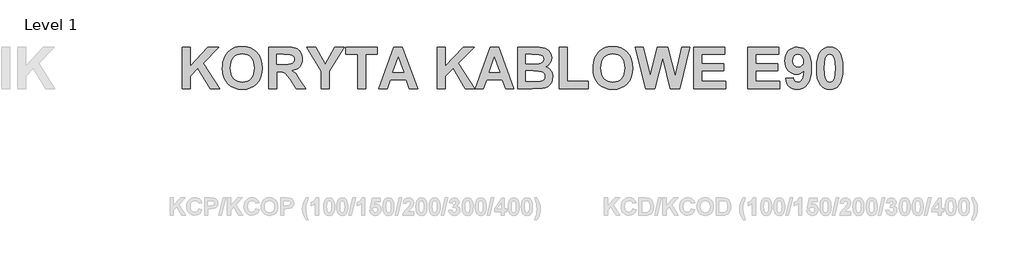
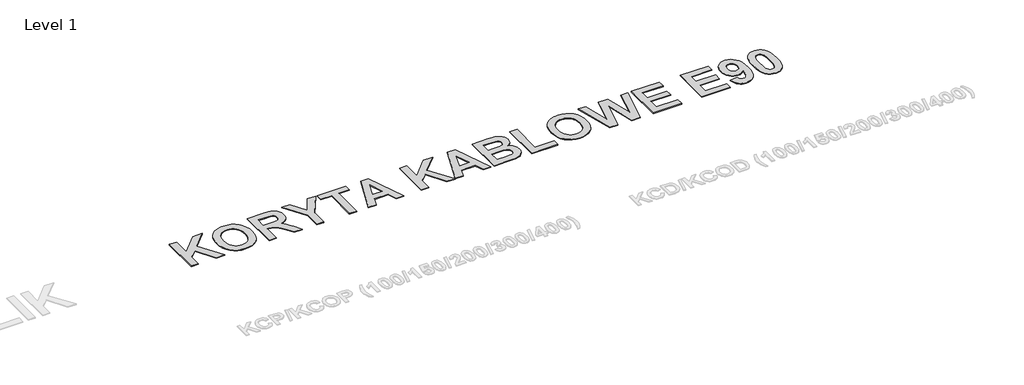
# One storey, part 17 of 42: 1 proxy.
"""IFC4 building model written with IfcOpenShell, lengths in millimetres."""

from ifc_helpers import new_model, si_unit, origin, origin_with_axes, place, context, project, spatial, polyline, outline, extrude, element, save

model = new_model("IFC4")

# Units and contexts
model_context = context("Model", 3, world=origin())
ifc_project = project(units=[si_unit("LENGTHUNIT", "METRE", prefix="MILLI")], contexts=[model_context])

# Site, building, storey
site = spatial("IfcSite", under=ifc_project)
building = spatial("IfcBuilding", under=site)
storey = spatial("IfcBuildingStorey", under=building, Name="Level 1", Elevation=0.0)

# Proxy
placement = place(None, origin())
element("IfcBuildingElementProxy", 1, Name="600mm Arial", ObjectType="600mm Arial", at=placement, inside=storey, context=model_context, shape_type="SweptSolid", body=[
    extrude(outline(polyline([(-16034.6648284, 6231.1737435), (-16034.6648284, 6843.3293835), (-15918.0637541, 6843.3293835), (-15918.0637541, 6564.2762916), (-15655.4076883, 6843.3293835), (-15495.3848598, 6843.3293835), (-15727.0687652, 6609.5199377), (-15485.6681036, 6231.1737435), (-15622.0063389, 6231.1737435), (-15802.8290987, 6532.8486583), (-15918.0637541, 6416.3994084), (-15918.0637541, 6231.1737435), (-16034.6648284, 6231.1737435)])), origin_with_axes(), (0.0, 0.0, 1.0), 10.0),
    extrude(outline(polyline([(-15441.9427008, 6533.4559556), (-15440.2251882, 6578.2631067), (-15435.0726505, 6619.312606), (-15426.4850877, 6656.6044535), (-15414.4624997, 6690.1386492), (-15390.2275433, 6734.3764591), (-15358.5152394, 6773.8697592), (-15321.3752163, 6806.1893603), (-15280.8571021, 6828.9060735), (-15251.6878555, 6839.4673525), (-15220.3551124, 6847.0111231), (-15186.8588728, 6851.5373855), (-15151.1991367, 6853.0461397), (-15088.0971556, 6847.8129453), (-15031.6374882, 6832.1133622), (-14981.8201347, 6805.9473903), (-14938.645095, 6769.3150297), (-14919.9635874, 6747.3609964), (-14903.7729476, 6723.3644517), (-14878.8642708, 6669.2438278), (-14863.9190647, 6606.9531578), (-14858.9373294, 6536.4924419), (-14863.8811087, 6466.5109215), (-14878.7124465, 6404.5950679), (-14903.4313428, 6350.744881), (-14919.4986255, 6326.8444125), (-14938.0377977, 6304.9603608), (-14980.9281669, 6268.4276349), (-15030.4988059, 6242.3328307), (-15086.7497148, 6226.6759482), (-15149.6808935, 6221.4569873), (-15213.2763037, 6226.6522256), (-15270.0016635, 6242.2379405), (-15319.8569731, 6268.214132), (-15362.8422324, 6304.5808), (-15397.4486873, 6350.056927), (-15422.1675837, 6403.3614953), (-15436.9989215, 6464.4945048), (-15441.9427008, 6533.4559556)]), holes=[polyline([(-15325.3416265, 6537.7070364), (-15322.2434616, 6489.2845688), (-15312.9489668, 6447.1058762), (-15297.4581421, 6411.1709585), (-15275.7709875, 6381.4798158), (-15249.310856, 6358.2317175), (-15219.5011006, 6341.625933), (-15186.3417212, 6331.6624623), (-15149.8327178, 6328.3413054), (-15113.3616705, 6331.6387398), (-15080.3161594, 6341.5310428), (-15050.6961843, 6358.0182146), (-15024.5017454, 6381.100255), (-15003.0802834, 6410.7771642), (-14987.7792391, 6447.0489421), (-14978.5986125, 6489.9155886), (-14975.5384037, 6539.3771039), (-14978.5179559, 6588.1506653), (-14987.4566124, 6630.3198689), (-15002.3543734, 6665.8847148), (-15023.2112387, 6694.845203), (-15049.0023943, 6717.2962236), (-15078.703026, 6733.3326669), (-15112.3131339, 6742.9545329), (-15149.8327178, 6746.1618216), (-15187.3902579, 6742.9165768), (-15221.1142339, 6733.1808426), (-15251.0046461, 6716.9546189), (-15277.0614942, 6694.2379057), (-15298.1840521, 6664.9832579), (-15313.2715934, 6629.1432304), (-15322.3241182, 6586.7178233), (-15325.3416265, 6537.7070364)])]), origin_with_axes(), (0.0, 0.0, 1.0), 10.0),
    extrude(outline(polyline([(-14761.7697675, 6231.1737435), (-14761.7697675, 6843.3293835), (-14504.2757285, 6843.3293835), (-14420.3927942, 6839.1921709), (-14388.4147977, 6834.0206551), (-14363.0791151, 6826.7805331), (-14342.1653156, 6816.8929745), (-14323.4529687, 6803.7791493), (-14306.9420744, 6787.4390573), (-14292.6326327, 6767.8726987), (-14281.0750067, 6745.9245961), (-14272.8195595, 6722.4392723), (-14267.8662912, 6697.4167273), (-14266.2152018, 6670.8569611), (-14268.6016903, 6637.7497713), (-14275.7611556, 6607.6600898), (-14287.6935979, 6580.5879165), (-14304.3990171, 6556.5332516), (-14325.8584352, 6536.074925), (-14352.0528742, 6519.7917672), (-14382.9823339, 6507.6837781), (-14418.6468145, 6499.7509576), (-14384.8279483, 6475.3831549), (-14357.4616154, 6448.7379876), (-14329.1463806, 6410.1366554), (-14292.4808084, 6349.9003582), (-14217.6314208, 6231.1737435), (-14353.8178318, 6231.1737435), (-14442.4832321, 6371.0039381), (-14485.3166671, 6424.6928116), (-14512.0946807, 6453.9759265), (-14531.4143248, 6468.3802584), (-14551.8726514, 6477.4327832), (-14579.0302258, 6482.2152491), (-14618.4476137, 6483.8094044), (-14645.1686932, 6483.8094044), (-14645.1686932, 6231.1737435), (-14761.7697675, 6231.1737435)]), holes=[polyline([(-14645.1686932, 6590.6937225), (-14549.0639015, 6590.6937225), (-14473.2086779, 6592.4586802), (-14432.3869151, 6597.7535532), (-14411.6249399, 6607.3564412), (-14395.9490794, 6622.0454437), (-14386.0994769, 6641.4220219), (-14382.8162761, 6665.0876371), (-14387.1432691, 6691.2963096), (-14400.124248, 6711.9254384), (-14421.0000914, 6726.4815947), (-14449.0116776, 6734.4713493), (-14543.7500505, 6736.4450654), (-14645.1686932, 6736.4450654), (-14645.1686932, 6590.6937225)])]), origin_with_axes(), (0.0, 0.0, 1.0), 10.0),
    extrude(outline(polyline([(-13984.4292723, 6231.1737435), (-13984.4292723, 6488.8196069), (-14203.0562866, 6843.3293835), (-14067.9326458, 6843.3293835), (-13926.4323838, 6591.7564927), (-13784.3248245, 6843.3293835), (-13649.2011837, 6843.3293835), (-13867.828198, 6487.908661), (-13867.828198, 6231.1737435), (-13984.4292723, 6231.1737435)])), origin_with_axes(), (0.0, 0.0, 1.0), 10.0),
    extrude(outline(polyline([(-13450.0076818, 6231.1737435), (-13450.0076818, 6736.4450654), (-13624.9092933, 6736.4450654), (-13624.9092933, 6843.3293835), (-13158.5049961, 6843.3293835), (-13158.5049961, 6736.4450654), (-13333.4066075, 6736.4450654), (-13333.4066075, 6231.1737435), (-13450.0076818, 6231.1737435)])), origin_with_axes(), (0.0, 0.0, 1.0), 10.0),
    extrude(outline(polyline([(-12565.7828685, 6231.1737435), (-12688.3050911, 6231.1737435), (-12736.2815748, 6367.2083302), (-12967.5100073, 6367.2083302), (-13014.8791937, 6231.1737435), (-13139.0714837, 6231.1737435), (-12915.5860914, 6843.3293835), (-12791.3938013, 6843.3293835), (-12565.7828685, 6231.1737435)]), holes=[polyline([(-12773.6303564, 6474.0926483), (-12852.4271761, 6697.5780406), (-12930.1612257, 6474.0926483), (-12773.6303564, 6474.0926483)])]), origin_with_axes(), (0.0, 0.0, 1.0), 10.0),
    extrude(outline(polyline([(-12274.2801828, 6231.1737435), (-12274.2801828, 6843.3293835), (-12157.6791086, 6843.3293835), (-12157.6791086, 6564.2762916), (-11895.0230428, 6843.3293835), (-11735.0002143, 6843.3293835), (-11966.6841197, 6609.5199377), (-11725.2834581, 6231.1737435), (-11861.6216934, 6231.1737435), (-12042.4444531, 6532.8486583), (-12157.6791086, 6416.3994084), (-12157.6791086, 6231.1737435), (-12274.2801828, 6231.1737435)])), origin_with_axes(), (0.0, 0.0, 1.0), 10.0),
    extrude(outline(polyline([(-11147.1364648, 6231.1737435), (-11269.6586874, 6231.1737435), (-11317.6351711, 6367.2083302), (-11548.8636035, 6367.2083302), (-11596.2327899, 6231.1737435), (-11720.42508, 6231.1737435), (-11496.9396876, 6843.3293835), (-11372.7473976, 6843.3293835), (-11147.1364648, 6231.1737435)]), holes=[polyline([(-11354.9839527, 6474.0926483), (-11433.7807724, 6697.5780406), (-11511.5148219, 6474.0926483), (-11354.9839527, 6474.0926483)])]), origin_with_axes(), (0.0, 0.0, 1.0), 10.0),
    extrude(outline(polyline([(-11088.8359276, 6843.3293835), (-10837.5666855, 6843.3293835), (-10772.4909883, 6841.8111403), (-10726.3553745, 6837.2564109), (-10691.6255623, 6827.8622813), (-10660.7672702, 6811.825838), (-10634.2549491, 6789.2799272), (-10612.56305, 6760.3573951), (-10598.101784, 6726.2918143), (-10593.2813619, 6688.3167574), (-10599.0317079, 6646.9446314), (-10616.2827457, 6609.0644647), (-10643.4023641, 6577.447051), (-10678.7584516, 6554.8631841), (-10654.9410121, 6545.3172303), (-10634.0461907, 6532.9245705), (-10616.0739873, 6517.6852048), (-10601.024402, 6499.5991333), (-10589.1346603, 6479.2262079), (-10580.6419877, 6457.126281), (-10575.5463841, 6433.2993525), (-10573.8478496, 6407.7454224), (-10578.7252057, 6366.7338792), (-10593.3572741, 6326.8989744), (-10616.4345701, 6291.5998211), (-10646.6476088, 6264.1955321), (-10684.3569732, 6245.2364707), (-10729.9232459, 6235.273), (-10879.6220209, 6231.1737435), (-11088.8359276, 6231.1737435), (-11088.8359276, 6843.3293835)]), holes=[polyline([(-10972.2348534, 6493.5261606), (-10972.2348534, 6338.0580616), (-10848.9535092, 6338.0580616), (-10757.5552713, 6341.7018452), (-10730.5684992, 6349.8434241), (-10709.1233147, 6364.8550533), (-10695.1175216, 6386.4330841), (-10690.4489239, 6414.273868), (-10694.0547513, 6438.4139341), (-10704.8722338, 6458.6065681), (-10722.4838544, 6474.3583408), (-10746.4720963, 6485.1758233), (-10789.5902019, 6491.4385763), (-10864.5914137, 6493.5261606), (-10972.2348534, 6493.5261606)]), polyline([(-10972.2348534, 6736.4450654), (-10972.2348534, 6600.4104787), (-10883.2658045, 6600.4104787), (-10784.5799994, 6602.3841948), (-10753.5129489, 6609.4819816), (-10729.8473337, 6623.4877747), (-10714.8736606, 6643.7183647), (-10709.8824362, 6669.4905423), (-10714.1904512, 6694.1430155), (-10727.114496, 6713.7473302), (-10748.5027465, 6727.4684527), (-10778.2033782, 6734.4713493), (-10894.1971552, 6736.4450654), (-10972.2348534, 6736.4450654)])]), origin_with_axes(), (0.0, 0.0, 1.0), 10.0),
    extrude(outline(polyline([(-10476.6802877, 6231.1737435), (-10476.6802877, 6843.3293835), (-10360.0792134, 6843.3293835), (-10360.0792134, 6338.0580616), (-10049.1430153, 6338.0580616), (-10049.1430153, 6231.1737435), (-10476.6802877, 6231.1737435)])), origin_with_axes(), (0.0, 0.0, 1.0), 10.0),
    extrude(outline(polyline([(-9981.125722, 6533.4559556), (-9979.4082094, 6578.2631067), (-9974.2556717, 6619.312606), (-9965.6681089, 6656.6044535), (-9953.6455209, 6690.1386492), (-9929.4105645, 6734.3764591), (-9897.6982606, 6773.8697592), (-9860.5582375, 6806.1893603), (-9820.0401233, 6828.9060735), (-9790.8708767, 6839.4673525), (-9759.5381335, 6847.0111231), (-9726.0418939, 6851.5373855), (-9690.3821579, 6853.0461397), (-9627.2801767, 6847.8129453), (-9570.8205094, 6832.1133622), (-9521.0031559, 6805.9473903), (-9477.8281162, 6769.3150297), (-9459.1466086, 6747.3609964), (-9442.9559687, 6723.3644517), (-9418.047292, 6669.2438278), (-9403.1020859, 6606.9531578), (-9398.1203506, 6536.4924419), (-9403.0641298, 6466.5109215), (-9417.8954677, 6404.5950679), (-9442.614364, 6350.744881), (-9458.6816467, 6326.8444125), (-9477.2208189, 6304.9603608), (-9520.1111881, 6268.4276349), (-9569.6818271, 6242.3328307), (-9625.9327359, 6226.6759482), (-9688.8639147, 6221.4569873), (-9752.4593248, 6226.6522256), (-9809.1846847, 6242.2379405), (-9859.0399943, 6268.214132), (-9902.0252536, 6304.5808), (-9936.6317085, 6350.056927), (-9961.3506049, 6403.3614953), (-9976.1819427, 6464.4945048), (-9981.125722, 6533.4559556)]), holes=[polyline([(-9864.5246477, 6537.7070364), (-9861.4264828, 6489.2845688), (-9852.1319879, 6447.1058762), (-9836.6411633, 6411.1709585), (-9814.9540087, 6381.4798158), (-9788.4938772, 6358.2317175), (-9758.6841218, 6341.625933), (-9725.5247424, 6331.6624623), (-9689.015739, 6328.3413054), (-9652.5446917, 6331.6387398), (-9619.4991806, 6341.5310428), (-9589.8792055, 6358.0182146), (-9563.6847666, 6381.100255), (-9542.2633046, 6410.7771642), (-9526.9622603, 6447.0489421), (-9517.7816337, 6489.9155886), (-9514.7214249, 6539.3771039), (-9517.700977, 6588.1506653), (-9526.6396336, 6630.3198689), (-9541.5373946, 6665.8847148), (-9562.3942599, 6694.845203), (-9588.1854155, 6717.2962236), (-9617.8860472, 6733.3326669), (-9651.4961551, 6742.9545329), (-9689.015739, 6746.1618216), (-9726.5732791, 6742.9165768), (-9760.2972551, 6733.1808426), (-9790.1876672, 6716.9546189), (-9816.2445154, 6694.2379057), (-9837.3670733, 6664.9832579), (-9852.4546146, 6629.1432304), (-9861.5071394, 6586.7178233), (-9864.5246477, 6537.7070364)])]), origin_with_axes(), (0.0, 0.0, 1.0), 10.0),
    extrude(outline(polyline([(-9205.1516456, 6231.1737435), (-9359.2533258, 6843.3293835), (-9239.6157652, 6843.3293835), (-9140.6263115, 6422.7760296), (-9034.1974664, 6843.3293835), (-8877.3629485, 6843.3293835), (-8771.3895763, 6415.7921111), (-8672.4001226, 6843.3293835), (-8552.762562, 6843.3293835), (-8704.5868775, 6231.1737435), (-8842.5951803, 6231.1737435), (-8956.0079439, 6688.7722303), (-9071.6980723, 6231.1737435), (-9205.1516456, 6231.1737435)])), origin_with_axes(), (0.0, 0.0, 1.0), 10.0),
    extrude(outline(polyline([(-8494.4620249, 6231.1737435), (-8494.4620249, 6843.3293835), (-8037.774484, 6843.3293835), (-8037.774484, 6736.4450654), (-8377.8609506, 6736.4450654), (-8377.8609506, 6600.4104787), (-8057.2079963, 6600.4104787), (-8057.2079963, 6493.5261606), (-8377.8609506, 6493.5261606), (-8377.8609506, 6338.0580616), (-8028.0577278, 6338.0580616), (-8028.0577278, 6231.1737435), (-8494.4620249, 6231.1737435)])), origin_with_axes(), (0.0, 0.0, 1.0), 10.0),
    extrude(outline(polyline([(-7697.6880173, 6231.1737435), (-7697.6880173, 6843.3293835), (-7241.0004764, 6843.3293835), (-7241.0004764, 6736.4450654), (-7581.086943, 6736.4450654), (-7581.086943, 6600.4104787), (-7260.4339888, 6600.4104787), (-7260.4339888, 6493.5261606), (-7581.086943, 6493.5261606), (-7581.086943, 6338.0580616), (-7231.2837202, 6338.0580616), (-7231.2837202, 6231.1737435), (-7697.6880173, 6231.1737435)])), origin_with_axes(), (0.0, 0.0, 1.0), 10.0),
    extrude(outline(polyline([(-7143.8329145, 6383.9090049), (-7027.2318402, 6396.3585987), (-7020.0771193, 6366.2214721), (-7006.5078211, 6345.0419801), (-6987.0553307, 6332.5164741), (-6962.2510332, 6328.3413054), (-6945.5883146, 6330.3577221), (-6930.2161026, 6336.4069722), (-6916.1343974, 6346.4890556), (-6903.3431988, 6360.6039724), (-6892.2884908, 6381.1429556), (-6883.4162574, 6410.4972381), (-6876.7264985, 6448.6668199), (-6872.2192141, 6495.6517011), (-6895.2111089, 6473.466373), (-6920.9168633, 6457.61971), (-6949.3364773, 6448.1117123), (-6980.469951, 6444.9423797), (-7014.5592544, 6448.3441933), (-7046.2288577, 6458.549634), (-7075.4787609, 6475.5587018), (-7102.3089642, 6499.3713968), (-7124.7267733, 6528.6402781), (-7140.739494, 6562.017905), (-7150.3471265, 6599.5042773), (-7153.5496707, 6641.0993953), (-7150.2617253, 6684.3645807), (-7140.3978893, 6723.2173719), (-7123.9581627, 6757.657769), (-7100.9425454, 6787.6857719), (-7072.8408135, 6812.0298519), (-7041.1427431, 6829.4184806), (-7005.8483343, 6839.8516578), (-6966.957587, 6843.3293835), (-6924.6840041, 6838.8553107), (-6886.3768315, 6825.4330923), (-6852.0360692, 6803.0627283), (-6821.661717, 6771.7442187), (-6796.8194634, 6730.1775679), (-6779.0749966, 6677.06278), (-6768.4283164, 6612.3998551), (-6764.8794231, 6536.1887933), (-6768.5896298, 6458.5069334), (-6779.7202499, 6392.4681007), (-6798.2712834, 6338.0722951), (-6824.2427304, 6295.3195168), (-6856.1637927, 6263.0046601), (-6892.5636724, 6239.9226197), (-6933.4423693, 6226.0733954), (-6978.7998836, 6221.4569873), (-7011.4610894, 6224.0000446), (-7040.8201164, 6231.6292165), (-7066.8769646, 6244.3445029), (-7089.6316339, 6262.1459039), (-7108.8468988, 6285.0144414), (-7124.2855339, 6312.9311374), (-7135.9475391, 6345.8959919), (-7143.8329145, 6383.9090049)]), holes=[polyline([(-6881.4804973, 6638.3665576), (-6883.0461856, 6660.3668498), (-6887.7432504, 6679.7576616), (-6895.5716916, 6696.538993), (-6906.5315094, 6710.7108439), (-6919.5409554, 6721.9695658), (-6933.5182815, 6730.01151), (-6948.4634875, 6734.8366765), (-6964.3765736, 6736.4450654), (-6992.9954571, 6731.1691704), (-7016.3004895, 6715.3414855), (-7025.3340363, 6703.1101391), (-7031.7865697, 6687.5196797), (-7036.9485964, 6646.261422), (-7035.5442215, 6623.5114972), (-7031.3310967, 6603.9973282), (-7024.3092221, 6587.7189149), (-7014.4785977, 6574.6762573), (-6989.2378052, 6557.5390876), (-6958.4554253, 6551.8266978), (-6928.5270571, 6557.3113512), (-6903.7227596, 6573.7653114), (-6893.9917698, 6586.0298693), (-6887.0410629, 6600.8849297), (-6881.4804973, 6638.3665576)])]), origin_with_axes(), (0.0, 0.0, 1.0), 10.0),
    extrude(outline(polyline([(-6492.8102497, 6843.3293835), (-6451.6943273, 6839.3819513), (-6415.3418928, 6827.5396547), (-6383.7529461, 6807.8024937), (-6356.9274874, 6780.1704682), (-6331.3545793, 6736.6633128), (-6313.0882163, 6680.8394098), (-6302.1283985, 6612.6987593), (-6298.4751259, 6532.2413611), (-6302.1473766, 6451.8598751), (-6313.1641285, 6383.6433123), (-6331.5253816, 6327.5916728), (-6357.231136, 6283.7049567), (-6383.9237485, 6256.4714701), (-6415.4178049, 6237.0189797), (-6451.7133053, 6225.3474854), (-6492.8102497, 6221.4569873), (-6534.3484336, 6225.7270462), (-6571.6640036, 6238.5372228), (-6604.7569599, 6259.8875172), (-6633.6273023, 6289.7779293), (-6657.0414585, 6330.6281592), (-6673.7658557, 6384.8579068), (-6683.8004941, 6452.4671723), (-6687.1453735, 6533.4559556), (-6683.4731229, 6613.4389028), (-6672.456371, 6681.370795), (-6654.0951179, 6737.2516321), (-6628.3893635, 6781.0814141), (-6601.696751, 6808.3149007), (-6570.2026946, 6827.7673911), (-6533.9071941, 6839.4388854), (-6492.8102497, 6843.3293835)]), holes=[polyline([(-6492.8102497, 6736.4450654), (-6513.3824445, 6733.2377767), (-6531.6772745, 6723.6159107), (-6546.859706, 6705.6816635), (-6558.0947054, 6677.537231), (-6567.4319008, 6619.5782986), (-6570.5442993, 6532.2413611), (-6567.7735055, 6446.062084), (-6559.4611242, 6391.8797814), (-6546.9166402, 6360.0725873), (-6531.449538, 6341.0186357), (-6513.3255104, 6331.510638), (-6492.8102497, 6328.3413054), (-6472.238055, 6331.5485941), (-6453.943225, 6341.1704601), (-6438.7607934, 6359.1047073), (-6427.5257941, 6387.2491398), (-6418.1885987, 6444.9044236), (-6415.0762002, 6532.2413611), (-6417.846994, 6618.325748), (-6426.1593753, 6672.5270286), (-6438.7038593, 6704.4291129), (-6454.1709615, 6723.6159107), (-6472.2949891, 6733.2377767), (-6492.8102497, 6736.4450654)])]), origin_with_axes(), (0.0, 0.0, 1.0), 10.0),
])

save(model, "model.ifc")
